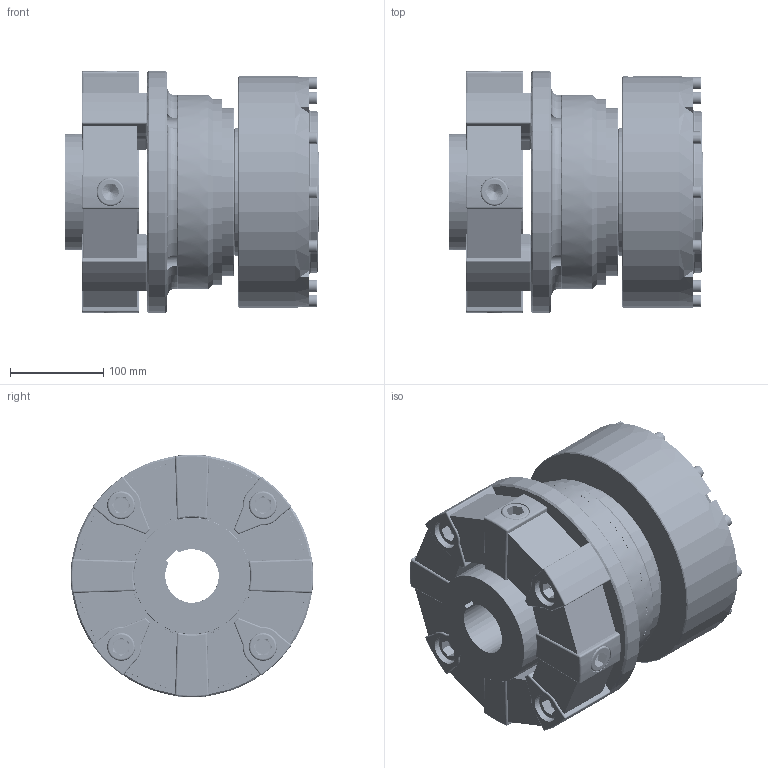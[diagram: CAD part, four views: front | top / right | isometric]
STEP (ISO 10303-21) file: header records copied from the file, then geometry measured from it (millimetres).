
FILE_DESCRIPTION(/* description */ (''),/* implementation_level */ '2;1');
FILE_NAME(/* name */ 'X:\INVENTOR\DISEGNI\03_Friz_Oleod_Pneum_Cil_Stat\03_62 DPG-N\03_62_07_01 DPG-N07\03_62_07_01 DPG-N07@STEP.stp',/* time_stamp */ '2023-02-06T16:27:19+01:00',/* author */ ('alessio'),/* organization */ (''),/* preprocessor_version */ 'ST-DEVELOPER v18.1',/* originating_system */ 'Autodesk Inventor 2021',/* authorisation */ '');
FILE_SCHEMA (('AUTOMOTIVE_DESIGN { 1 0 10303 214 3 1 1 }'));
Length unit declared in the file: millimetre
Products named in the file (1): 03_62_07_01 DPG-N07
Bounding box: 273 x 260 x 260 mm (x, y, z)
Volume: 8755644.3 mm3; surface area: 1235926.4 mm2
Topology: 36 solids, 90 shells, 4609 faces, 14047 edges, 8369 vertices
Faces by surface type: plane 3055, cylinder 817, torus 442, sphere 112, bspline 92, cone 91
Full cylindrical faces by diameter (mm): 3.5 x4, 4 x4, 6.647 x12, 7.5 x4, 8 x16, 8.376 x6, 8.5 x12, 9.5 x36, 10 x6, 10.5 x6, 11 x1, 11.445 x1, 13 x12, 16 x6, 16.5 x6, 17.294 x8, 20 x8, 21 x8, 30 x8, 31 x8, 81.5 x2, 85 x7, 92 x1, 96 x1, 98 x1, 99.67 x4, 103 x1, 106.19 x2, 115.33 x4, 119 x2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
Entity records: 222851 total; most frequent: CARTESIAN_POINT 86605, DIRECTION 30998, ORIENTED_EDGE 27836, EDGE_CURVE 13918, AXIS2_PLACEMENT_3D 13462, VERTEX_POINT 8509, EDGE_LOOP 4989, ELLIPSE 4838
